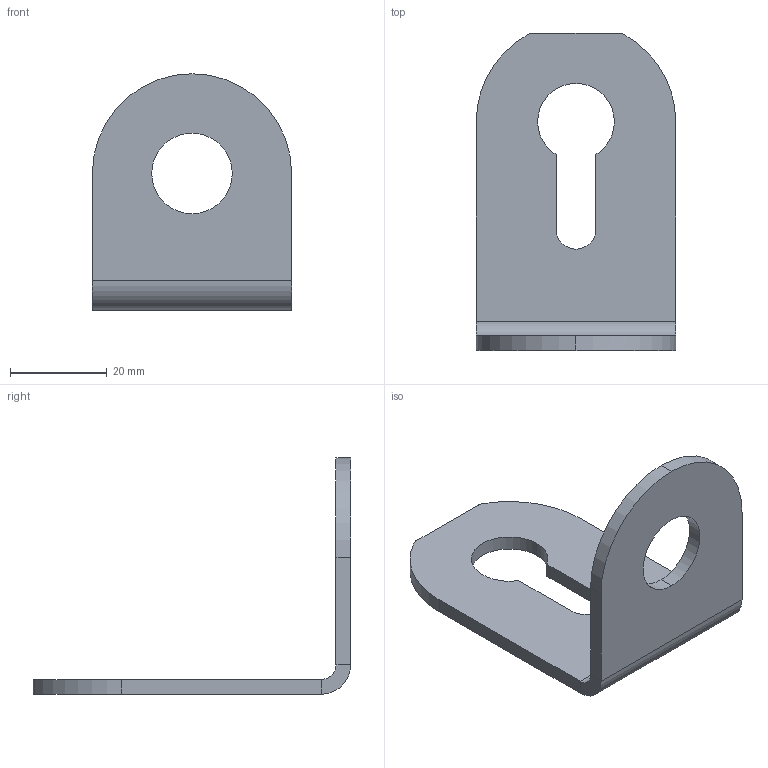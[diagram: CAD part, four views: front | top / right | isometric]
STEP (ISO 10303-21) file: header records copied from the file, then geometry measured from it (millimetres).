
FILE_DESCRIPTION (( 'STEP AP214' ), '1' );
FILE_NAME ('OZWRH-SS.STEP', '2026-05-14T14:08:49', ( '' ), ( '' ), 'SwSTEP 2.0', 'SolidWorks 2023', '' );
FILE_SCHEMA (( 'AUTOMOTIVE_DESIGN' ));
Length unit declared in the file: inch
Products named in the file (2): 294-0280; OZWRH-SS
Assembly tree (1 placements, depth 2):
  OZWRH-SS
    294-0280
Bounding box: 41.27 x 65.68 x 48.96 mm (x, y, z)
Volume: 11160.3 mm3; surface area: 8565.6 mm2
Topology: 1 solids, 1 shells, 27 faces, 67 edges, 42 vertices
Faces by surface type: cylinder 14, plane 13
Entity records: 874 total; most frequent: DIRECTION 157, CARTESIAN_POINT 140, ORIENTED_EDGE 134, EDGE_CURVE 67, AXIS2_PLACEMENT_3D 59, VERTEX_POINT 42, LINE 39, VECTOR 39
